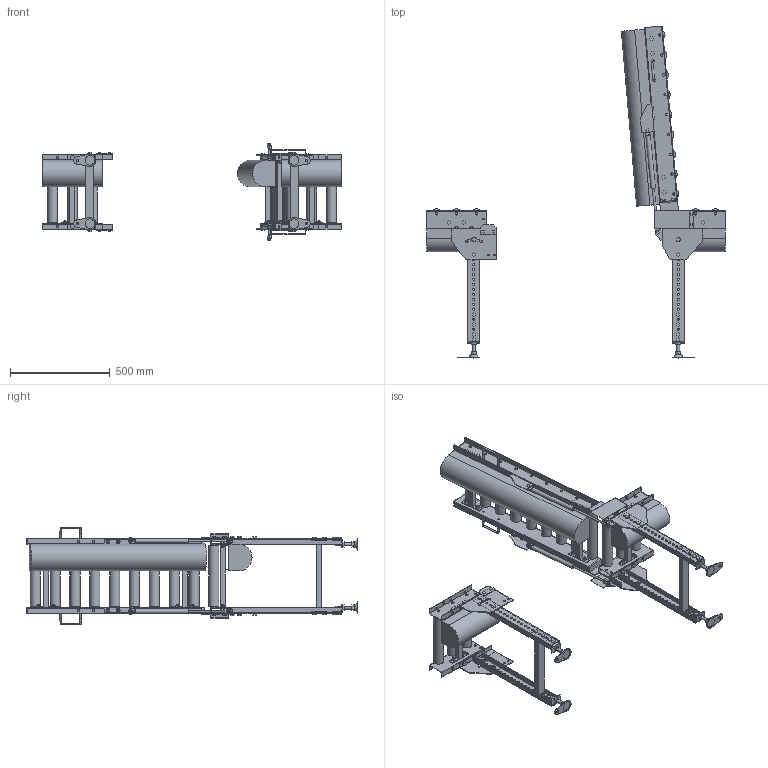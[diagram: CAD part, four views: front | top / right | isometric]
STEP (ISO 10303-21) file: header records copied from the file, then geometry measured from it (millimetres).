
FILE_DESCRIPTION( (''), '2;1');
FILE_NAME ('WEB-MCD50-315-100-90-L-HU.stp','2025-07-01T15:58:31',(''),(''),'spGate 20.6.2 (****-****-****-****)','','');
FILE_SCHEMA (('AUTOMOTIVE_DESIGN'));
Length unit declared in the file: millimetre
Products named in the file (21): WEB-MCD50-315-100-90-L-HU; TEMP_X_T-prt0; TEMP_X_T-prt1; TEMP_X_T-prt2; TEMP_X_T-prt3; TEMP_X_T-prt4; TEMP_X_T-prt5; TEMP_X_T-prt6; TEMP_X_T-prt7; TEMP_X_T-prt8; TEMP_X_T-prt9; TEMP_X_T-prt10; TEMP_X_T-prt11; TEMP_X_T-prt12; TEMP_X_T-prt13; TEMP_X_T-prt14; TEMP_X_T-prt15; TEMP_X_T-prt16; TEMP_X_T-prt17; TEMP_X_T-prt18; TEMP_X_T-prt19
Assembly tree (20 placements, depth 2):
  WEB-MCD50-315-100-90-L-HU
    TEMP_X_T-prt0
    TEMP_X_T-prt1
    TEMP_X_T-prt2
    TEMP_X_T-prt3
    TEMP_X_T-prt4
    TEMP_X_T-prt5
    TEMP_X_T-prt6
    TEMP_X_T-prt7
    TEMP_X_T-prt8
    TEMP_X_T-prt9
    TEMP_X_T-prt10
    TEMP_X_T-prt11
    TEMP_X_T-prt12
    TEMP_X_T-prt13
    TEMP_X_T-prt14
    TEMP_X_T-prt15
    TEMP_X_T-prt16
    TEMP_X_T-prt17
    TEMP_X_T-prt18
    TEMP_X_T-prt19
Bounding box: 1500 x 1665.85 x 491.39 mm (x, y, z)
Volume: 35015625.8 mm3; surface area: 3781037.2 mm2
Topology: 20 solids, 46 shells, 2554 faces, 6470 edges, 4254 vertices
Faces by surface type: plane 2110, cylinder 426, bspline 18
Full cylindrical faces by diameter (mm): 8 x8, 8.5 x8, 9 x20, 10 x58, 10.5 x96, 11 x8, 12 x32, 13 x12, 14 x4, 15 x6, 15.4 x2, 15.7 x2, 16 x10, 17 x4, 18 x6, 18.4 x28, 18.5 x8, 21 x12, 22 x2, 50.8 x15
Entity records: 130923 total; most frequent: CARTESIAN_POINT 14769, DIRECTION 13048, ORIENTED_EDGE 12940, COLOUR_RGB 9044, PRESENTATION_STYLE_ASSIGNMENT 9044, STYLED_ITEM 9044, EDGE_CURVE 6470, DRAUGHTING_PRE_DEFINED_CURVE_FONT 6470
